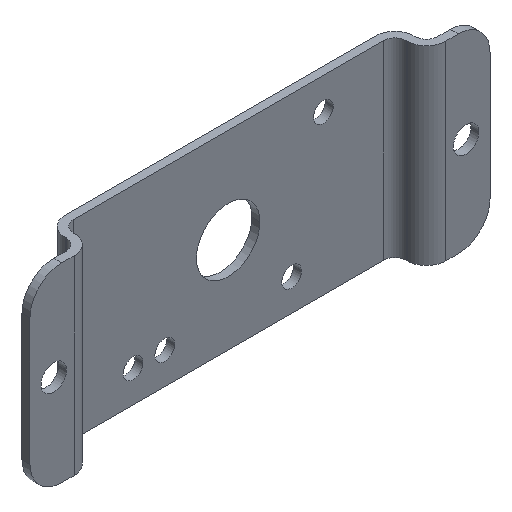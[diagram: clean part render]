
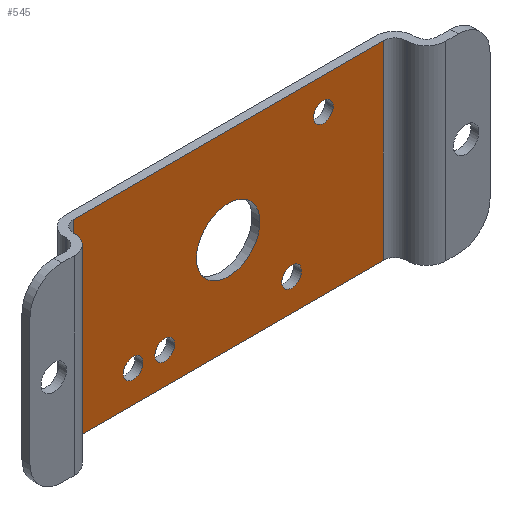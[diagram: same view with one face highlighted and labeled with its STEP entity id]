
A CAD part, isometric view. The second image highlights one B-rep face of the part: STEP entity #545.
In plain terms, the highlighted planar face has unit normal (0, -1, 0).
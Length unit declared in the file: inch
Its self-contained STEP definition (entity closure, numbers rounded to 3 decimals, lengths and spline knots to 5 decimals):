
#2 = VERTEX_POINT ( 'NONE', #385 ) ;
#6 = AXIS2_PLACEMENT_3D ( 'NONE', #342, #681, #675 ) ;
#16 = VERTEX_POINT ( 'NONE', #1242 ) ;
#17 = DIRECTION ( 'NONE',  ( 0., -1., 0. ) ) ;
#23 = ORIENTED_EDGE ( 'NONE', *, *, #214, .F. ) ;
#26 = DIRECTION ( 'NONE',  ( 0., -1., 0. ) ) ;
#63 = ORIENTED_EDGE ( 'NONE', *, *, #259, .F. ) ;
#65 = ORIENTED_EDGE ( 'NONE', *, *, #1094, .F. ) ;
#80 = DIRECTION ( 'NONE',  ( 0., 0., 1. ) ) ;
#97 = AXIS2_PLACEMENT_3D ( 'NONE', #926, #596, #497 ) ;
#98 = CARTESIAN_POINT ( 'NONE',  ( 1.3905, 0.25, -1.25 ) ) ;
#101 = EDGE_LOOP ( 'NONE', ( #63, #1115 ) ) ;
#110 = CARTESIAN_POINT ( 'NONE',  ( 1.3125, 0.25, -1.25 ) ) ;
#112 = ORIENTED_EDGE ( 'NONE', *, *, #971, .T. ) ;
#115 = CARTESIAN_POINT ( 'NONE',  ( 0.591, 0.25, -1.5 ) ) ;
#118 = AXIS2_PLACEMENT_3D ( 'NONE', #1289, #413, #618 ) ;
#136 = CARTESIAN_POINT ( 'NONE',  ( 0.591, 0.25, 0. ) ) ;
#163 = AXIS2_PLACEMENT_3D ( 'NONE', #453, #553, #202 ) ;
#174 = VERTEX_POINT ( 'NONE', #98 ) ;
#177 = DIRECTION ( 'NONE',  ( 0., 0., -1. ) ) ;
#188 = DIRECTION ( 'NONE',  ( 0., -1., 0. ) ) ;
#191 = CARTESIAN_POINT ( 'NONE',  ( 3.035, 0.25, 0. ) ) ;
#202 = DIRECTION ( 'NONE',  ( 0., 0., -1. ) ) ;
#205 = PLANE ( 'NONE',  #370 ) ;
#209 = VECTOR ( 'NONE', #226, 39.37008 ) ;
#214 = EDGE_CURVE ( 'NONE', #2, #1410, #322, .T. ) ;
#219 = ORIENTED_EDGE ( 'NONE', *, *, #1170, .F. ) ;
#222 = DIRECTION ( 'NONE',  ( 1., 0., 0. ) ) ;
#224 = EDGE_CURVE ( 'NONE', #284, #636, #306, .T. ) ;
#226 = DIRECTION ( 'NONE',  ( 1., 0., 0. ) ) ;
#234 = EDGE_CURVE ( 'NONE', #634, #521, #622, .T. ) ;
#249 = CARTESIAN_POINT ( 'NONE',  ( 2.5625, 0.25, -0.25 ) ) ;
#250 = ORIENTED_EDGE ( 'NONE', *, *, #224, .T. ) ;
#258 = EDGE_CURVE ( 'NONE', #636, #1132, #884, .T. ) ;
#259 = EDGE_CURVE ( 'NONE', #730, #174, #1116, .T. ) ;
#266 = CARTESIAN_POINT ( 'NONE',  ( 1.1405, 0.25, -1.25 ) ) ;
#269 = VERTEX_POINT ( 'NONE', #766 ) ;
#284 = VERTEX_POINT ( 'NONE', #136 ) ;
#306 = LINE ( 'NONE', #638, #865 ) ;
#307 = EDGE_CURVE ( 'NONE', #704, #269, #1022, .T. ) ;
#319 = CARTESIAN_POINT ( 'NONE',  ( 2.5625, 0.25, -0.25 ) ) ;
#322 = CIRCLE ( 'NONE', #1232, 0.25 ) ;
#342 = CARTESIAN_POINT ( 'NONE',  ( 1.0625, 0.25, -1.25 ) ) ;
#350 = AXIS2_PLACEMENT_3D ( 'NONE', #249, #1365, #1125 ) ;
#370 = AXIS2_PLACEMENT_3D ( 'NONE', #643, #949, #428 ) ;
#376 = EDGE_CURVE ( 'NONE', #174, #730, #506, .T. ) ;
#385 = CARTESIAN_POINT ( 'NONE',  ( 2.0625, 0.25, -0.75 ) ) ;
#403 = FACE_BOUND ( 'NONE', #656, .T. ) ;
#409 = FACE_BOUND ( 'NONE', #1393, .T. ) ;
#413 = DIRECTION ( 'NONE',  ( 0., -1., 0. ) ) ;
#428 = DIRECTION ( 'NONE',  ( 0., 0., -1. ) ) ;
#434 = CARTESIAN_POINT ( 'NONE',  ( 3.035, 0.25, 0. ) ) ;
#453 = CARTESIAN_POINT ( 'NONE',  ( 1.0625, 0.25, -1.25 ) ) ;
#464 = CIRCLE ( 'NONE', #163, 0.078 ) ;
#466 = ORIENTED_EDGE ( 'NONE', *, *, #1040, .F. ) ;
#497 = DIRECTION ( 'NONE',  ( 0., 0., -1. ) ) ;
#506 = CIRCLE ( 'NONE', #97, 0.078 ) ;
#514 = FACE_BOUND ( 'NONE', #1382, .T. ) ;
#521 = VERTEX_POINT ( 'NONE', #266 ) ;
#537 = DIRECTION ( 'NONE',  ( 0., -1., 0. ) ) ;
#539 = EDGE_CURVE ( 'NONE', #16, #960, #666, .T. ) ;
#542 = LINE ( 'NONE', #967, #209 ) ;
#545 = ADVANCED_FACE ( 'NONE', ( #1188, #409, #1069, #514, #403, #858 ), #205, .T. ) ;
#550 = DIRECTION ( 'NONE',  ( 0., 0., -1. ) ) ;
#553 = DIRECTION ( 'NONE',  ( 0., -1., 0. ) ) ;
#565 = CARTESIAN_POINT ( 'NONE',  ( 2.3125, 0.25, -1.25 ) ) ;
#575 = DIRECTION ( 'NONE',  ( 0., -1., 0. ) ) ;
#579 = CIRCLE ( 'NONE', #1147, 0.25 ) ;
#596 = DIRECTION ( 'NONE',  ( 0., -1., 0. ) ) ;
#618 = DIRECTION ( 'NONE',  ( 0., 0., -1. ) ) ;
#622 = CIRCLE ( 'NONE', #6, 0.078 ) ;
#634 = VERTEX_POINT ( 'NONE', #1182 ) ;
#636 = VERTEX_POINT ( 'NONE', #115 ) ;
#638 = CARTESIAN_POINT ( 'NONE',  ( 0.591, 0.25, -1.5 ) ) ;
#640 = CARTESIAN_POINT ( 'NONE',  ( 2.6405, 0.25, -0.25 ) ) ;
#643 = CARTESIAN_POINT ( 'NONE',  ( 0.501, 0.25, -1.5 ) ) ;
#648 = EDGE_LOOP ( 'NONE', ( #1278, #112, #219, #250 ) ) ;
#656 = EDGE_LOOP ( 'NONE', ( #1198, #23 ) ) ;
#666 = CIRCLE ( 'NONE', #1002, 0.078 ) ;
#675 = DIRECTION ( 'NONE',  ( 0., 0., -1. ) ) ;
#681 = DIRECTION ( 'NONE',  ( 0., -1., 0. ) ) ;
#704 = VERTEX_POINT ( 'NONE', #1216 ) ;
#723 = EDGE_LOOP ( 'NONE', ( #1119, #1181 ) ) ;
#730 = VERTEX_POINT ( 'NONE', #1201 ) ;
#743 = VERTEX_POINT ( 'NONE', #434 ) ;
#766 = CARTESIAN_POINT ( 'NONE',  ( 2.2345, 0.25, -1.25 ) ) ;
#783 = EDGE_CURVE ( 'NONE', #960, #16, #1352, .T. ) ;
#787 = DIRECTION ( 'NONE',  ( 0., 0., -1. ) ) ;
#810 = ORIENTED_EDGE ( 'NONE', *, *, #234, .F. ) ;
#856 = DIRECTION ( 'NONE',  ( 0., 0., -1. ) ) ;
#858 = FACE_OUTER_BOUND ( 'NONE', #648, .T. ) ;
#865 = VECTOR ( 'NONE', #1292, 39.37008 ) ;
#884 = LINE ( 'NONE', #1306, #1165 ) ;
#926 = CARTESIAN_POINT ( 'NONE',  ( 1.3125, 0.25, -1.25 ) ) ;
#934 = AXIS2_PLACEMENT_3D ( 'NONE', #110, #26, #550 ) ;
#949 = DIRECTION ( 'NONE',  ( 0., -1., 0. ) ) ;
#960 = VERTEX_POINT ( 'NONE', #640 ) ;
#967 = CARTESIAN_POINT ( 'NONE',  ( 0.501, 0.25, 0. ) ) ;
#971 = EDGE_CURVE ( 'NONE', #1132, #743, #1036, .T. ) ;
#1002 = AXIS2_PLACEMENT_3D ( 'NONE', #319, #537, #177 ) ;
#1022 = CIRCLE ( 'NONE', #1307, 0.078 ) ;
#1036 = LINE ( 'NONE', #191, #1213 ) ;
#1040 = EDGE_CURVE ( 'NONE', #269, #704, #1401, .T. ) ;
#1048 = DIRECTION ( 'NONE',  ( 0., 0., -1. ) ) ;
#1053 = ORIENTED_EDGE ( 'NONE', *, *, #307, .F. ) ;
#1069 = FACE_BOUND ( 'NONE', #101, .T. ) ;
#1094 = EDGE_CURVE ( 'NONE', #521, #634, #464, .T. ) ;
#1115 = ORIENTED_EDGE ( 'NONE', *, *, #376, .F. ) ;
#1116 = CIRCLE ( 'NONE', #934, 0.078 ) ;
#1119 = ORIENTED_EDGE ( 'NONE', *, *, #539, .F. ) ;
#1125 = DIRECTION ( 'NONE',  ( 0., 0., -1. ) ) ;
#1132 = VERTEX_POINT ( 'NONE', #1199 ) ;
#1147 = AXIS2_PLACEMENT_3D ( 'NONE', #1205, #17, #856 ) ;
#1165 = VECTOR ( 'NONE', #222, 39.37008 ) ;
#1168 = CARTESIAN_POINT ( 'NONE',  ( 1.8125, 0.25, -0.75 ) ) ;
#1170 = EDGE_CURVE ( 'NONE', #284, #743, #542, .T. ) ;
#1181 = ORIENTED_EDGE ( 'NONE', *, *, #783, .F. ) ;
#1182 = CARTESIAN_POINT ( 'NONE',  ( 0.9845, 0.25, -1.25 ) ) ;
#1188 = FACE_BOUND ( 'NONE', #723, .T. ) ;
#1198 = ORIENTED_EDGE ( 'NONE', *, *, #1210, .F. ) ;
#1199 = CARTESIAN_POINT ( 'NONE',  ( 3.035, 0.25, -1.5 ) ) ;
#1201 = CARTESIAN_POINT ( 'NONE',  ( 1.2345, 0.25, -1.25 ) ) ;
#1205 = CARTESIAN_POINT ( 'NONE',  ( 1.8125, 0.25, -0.75 ) ) ;
#1210 = EDGE_CURVE ( 'NONE', #1410, #2, #579, .T. ) ;
#1213 = VECTOR ( 'NONE', #80, 39.37008 ) ;
#1216 = CARTESIAN_POINT ( 'NONE',  ( 2.3905, 0.25, -1.25 ) ) ;
#1232 = AXIS2_PLACEMENT_3D ( 'NONE', #1168, #188, #1048 ) ;
#1242 = CARTESIAN_POINT ( 'NONE',  ( 2.4845, 0.25, -0.25 ) ) ;
#1278 = ORIENTED_EDGE ( 'NONE', *, *, #258, .T. ) ;
#1289 = CARTESIAN_POINT ( 'NONE',  ( 2.3125, 0.25, -1.25 ) ) ;
#1292 = DIRECTION ( 'NONE',  ( 0., 0., -1. ) ) ;
#1306 = CARTESIAN_POINT ( 'NONE',  ( 0.501, 0.25, -1.5 ) ) ;
#1307 = AXIS2_PLACEMENT_3D ( 'NONE', #565, #575, #787 ) ;
#1352 = CIRCLE ( 'NONE', #350, 0.078 ) ;
#1365 = DIRECTION ( 'NONE',  ( 0., -1., 0. ) ) ;
#1369 = CARTESIAN_POINT ( 'NONE',  ( 1.5625, 0.25, -0.75 ) ) ;
#1382 = EDGE_LOOP ( 'NONE', ( #466, #1053 ) ) ;
#1393 = EDGE_LOOP ( 'NONE', ( #810, #65 ) ) ;
#1401 = CIRCLE ( 'NONE', #118, 0.078 ) ;
#1410 = VERTEX_POINT ( 'NONE', #1369 ) ;
